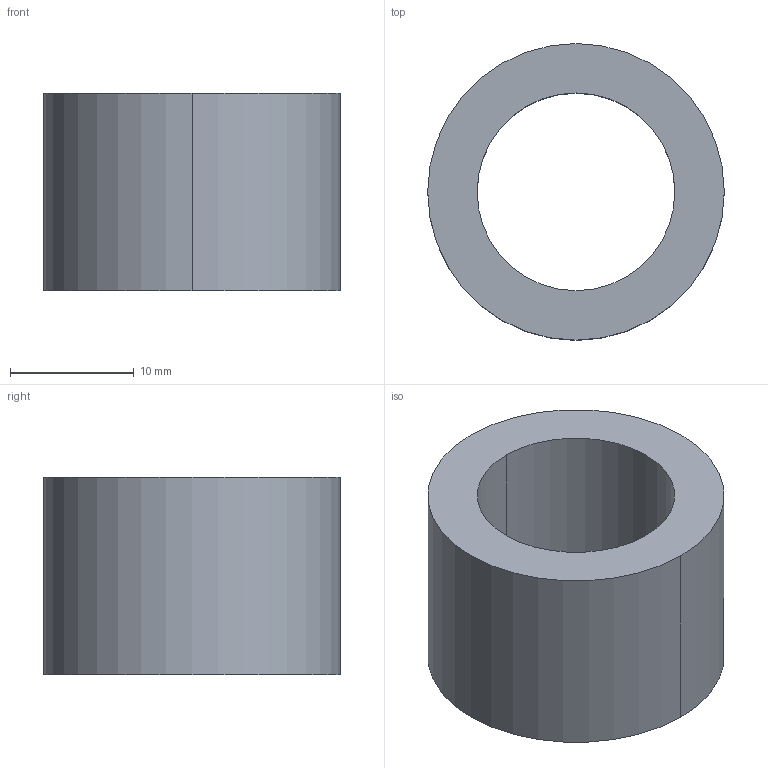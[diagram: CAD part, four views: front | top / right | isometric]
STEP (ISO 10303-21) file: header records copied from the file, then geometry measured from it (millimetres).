
FILE_DESCRIPTION(/* description */ (''),/* implementation_level */ '2;1');
FILE_NAME(/* name */ '3d_tgbz16-16_00330_r00.stp',/* time_stamp */ '2011-01-10T14:09:03+09:00',/* author */ ('MISUMI'),/* organization */ (''),/* preprocessor_version */ 'ST-DEVELOPER v11',/* originating_system */ 'UGS - NX 5.0',/* authorisation */ '');
FILE_SCHEMA (('CONFIG_CONTROL_DESIGN'));
Length unit declared in the file: millimetre
Products named in the file (1): 3d_tgbz16-16_00330_r00
Bounding box: 24 x 24 x 16 mm (x, y, z)
Volume: 4021.2 mm3; surface area: 2513.3 mm2
Topology: 1 solids, 1 shells, 6 faces, 12 edges, 8 vertices
Faces by surface type: cylinder 4, plane 2
Entity records: 254 total; most frequent: DIRECTION 34, CARTESIAN_POINT 27, ORIENTED_EDGE 24, AXIS2_PLACEMENT_3D 15, EDGE_CURVE 12, EDGE_LOOP 8, CIRCLE 8, VERTEX_POINT 8
